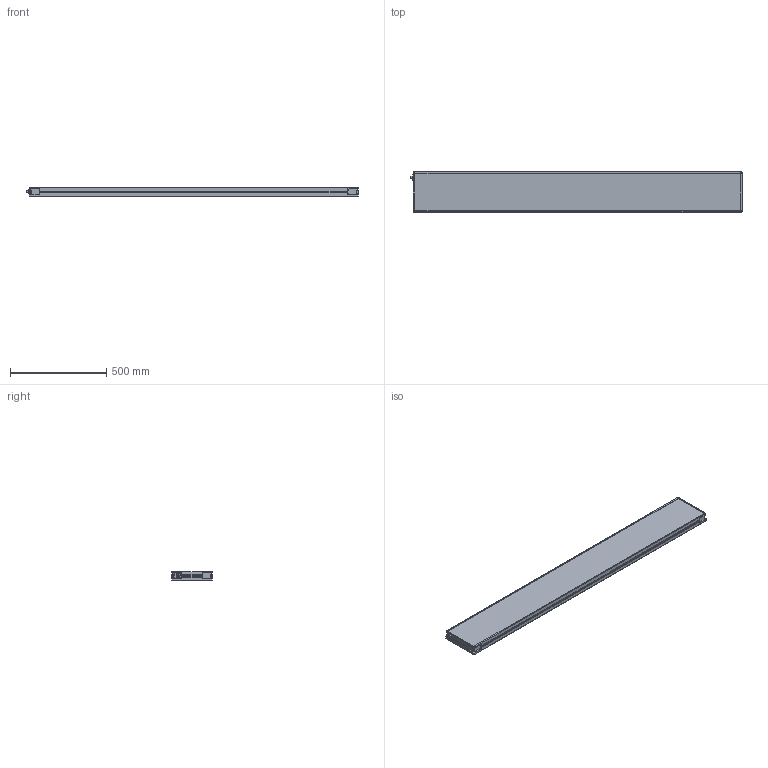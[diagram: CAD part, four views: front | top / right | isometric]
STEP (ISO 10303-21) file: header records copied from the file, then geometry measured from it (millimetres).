
FILE_DESCRIPTION (( 'STEP AP214' ), '1' );
FILE_NAME ('MBACK-xxxx-xxx-M1_CLIENT200x1700.STEP', '2022-03-31T15:58:05', ( '' ), ( '' ), 'SwSTEP 2.0', 'SolidWorks 2020', '' );
FILE_SCHEMA (( 'AUTOMOTIVE_DESIGN' ));
Length unit declared in the file: millimetre
Products named in the file (1): MBACK-xxxx-xxx-M1_CLIENT200x1700
Bounding box: 1725.9 x 208 x 45.5 mm (x, y, z)
Volume: 14711680.1 mm3; surface area: 965014.1 mm2
Topology: 1 solids, 1 shells, 442 faces, 1144 edges, 760 vertices
Faces by surface type: plane 249, cylinder 105, bspline 80, cone 8
Entity records: 17236 total; most frequent: CARTESIAN_POINT 6699, ORIENTED_EDGE 2288, DIRECTION 1936, EDGE_CURVE 1144, VERTEX_POINT 760, LINE 758, VECTOR 758, AXIS2_PLACEMENT_3D 589
